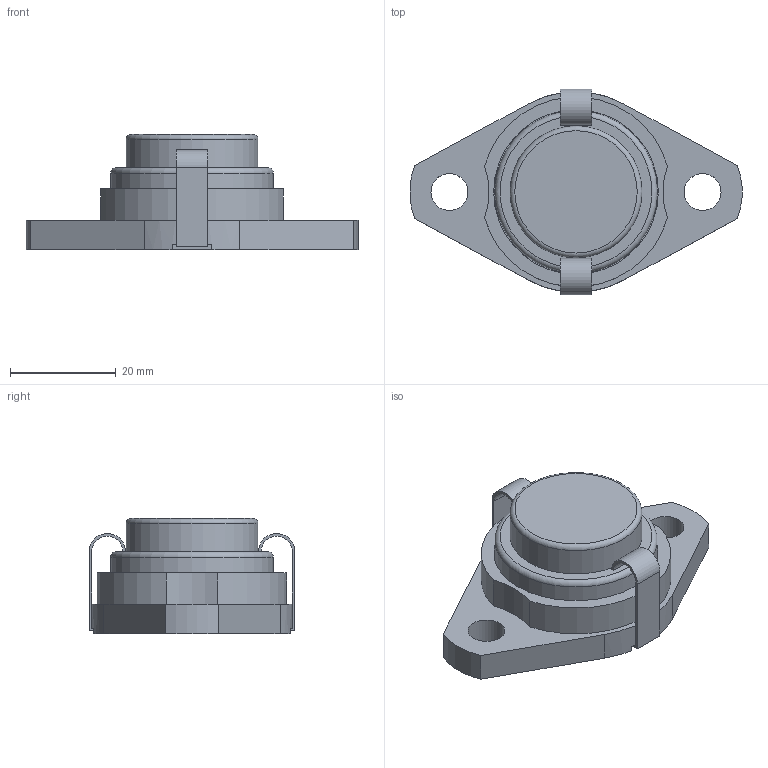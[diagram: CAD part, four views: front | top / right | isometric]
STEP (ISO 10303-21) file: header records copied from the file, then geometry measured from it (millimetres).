
FILE_DESCRIPTION((''),'2;1');
FILE_NAME('\\Ts-tgl068\j-cad-d-base\00.3DCADデータ作成フォルダ\11.エコシリーズ\MUSFL000\MUSFL001E.stp','2014-11-12T09:51:56',('btec_1106_2'),(''),'Autodesk Inventor 2012','Autodesk Inventor 2012','');
FILE_SCHEMA(('AUTOMOTIVE_DESIGN { 1 0 10303 214 1 1 1 1 }'));
Length unit declared in the file: millimetre
Products named in the file (5): MUSFL000C(E); SFL001; U001; 001CPE; 1CLL
Assembly tree (5 placements, depth 2):
  MUSFL000C(E)
    SFL001
    U001
    001CPE
    1CLL  x2
Bounding box: 62.93 x 39 x 21.8 mm (x, y, z)
Volume: 12804.8 mm3; surface area: 11880 mm2
Topology: 5 solids, 5 shells, 107 faces, 256 edges, 167 vertices
Faces by surface type: plane 60, cylinder 38, torus 4, cone 3, sphere 2
Full cylindrical faces by diameter (mm): 3.5 x1, 4 x1, 7 x2, 12 x1, 17.4 x1, 19 x1, 24.4 x1, 25 x1, 30.2 x1, 30.8 x1, 31.2 x1
Entity records: 2944 total; most frequent: CARTESIAN_POINT 589, DIRECTION 494, ORIENTED_EDGE 406, EDGE_CURVE 203, AXIS2_PLACEMENT_3D 190, VERTEX_POINT 145, EDGE_LOOP 138, VECTOR 114
